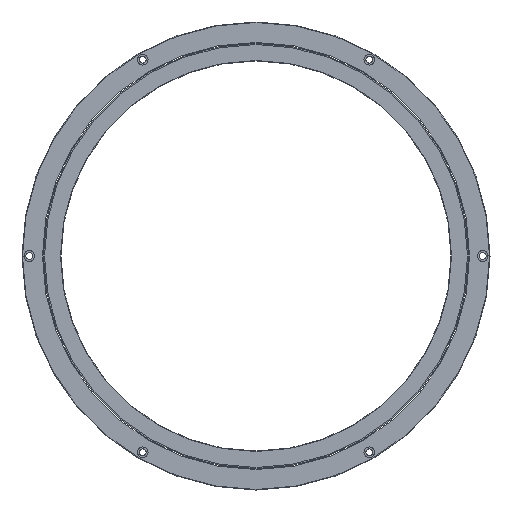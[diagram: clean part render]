
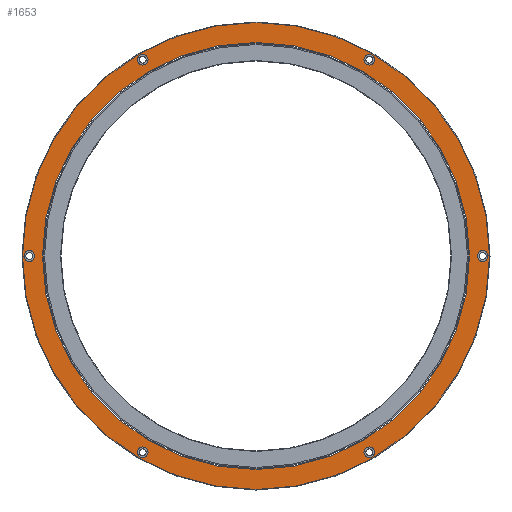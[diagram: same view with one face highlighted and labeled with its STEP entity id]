
A CAD part, front view. The second image highlights one B-rep face of the part: STEP entity #1653.
In plain terms, the highlighted planar face has unit normal (0, -1, 0).
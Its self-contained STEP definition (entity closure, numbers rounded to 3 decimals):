
#371=CARTESIAN_POINT('',(0.,0.,0.));
#372=DIRECTION('',(0.,-1.,0.));
#373=DIRECTION('',(-1.,0.,0.));
#374=AXIS2_PLACEMENT_3D('',#371,#372,#373);
#376=CARTESIAN_POINT('',(0.,0.,0.));
#377=DIRECTION('',(0.,1.,0.));
#378=DIRECTION('',(-1.,0.,0.));
#379=AXIS2_PLACEMENT_3D('',#376,#377,#378);
#381=CARTESIAN_POINT('',(-232.5,0.,0.));
#382=DIRECTION('',(0.,1.,0.));
#383=DIRECTION('',(1.,0.,0.));
#384=AXIS2_PLACEMENT_3D('',#381,#382,#383);
#386=CARTESIAN_POINT('',(-232.5,0.,0.));
#387=DIRECTION('',(0.,1.,0.));
#388=DIRECTION('',(-1.,0.,0.));
#389=AXIS2_PLACEMENT_3D('',#386,#387,#388);
#391=CARTESIAN_POINT('',(-116.25,0.,201.351));
#392=DIRECTION('',(0.,1.,0.));
#393=DIRECTION('',(0.5,0.,-0.866));
#394=AXIS2_PLACEMENT_3D('',#391,#392,#393);
#396=CARTESIAN_POINT('',(-116.25,0.,201.351));
#397=DIRECTION('',(0.,1.,0.));
#398=DIRECTION('',(-0.5,0.,0.866));
#399=AXIS2_PLACEMENT_3D('',#396,#397,#398);
#401=CARTESIAN_POINT('',(116.25,0.,201.351));
#402=DIRECTION('',(0.,1.,0.));
#403=DIRECTION('',(-0.5,0.,-0.866));
#404=AXIS2_PLACEMENT_3D('',#401,#402,#403);
#406=CARTESIAN_POINT('',(116.25,0.,201.351));
#407=DIRECTION('',(0.,1.,0.));
#408=DIRECTION('',(0.5,0.,0.866));
#409=AXIS2_PLACEMENT_3D('',#406,#407,#408);
#411=CARTESIAN_POINT('',(232.5,0.,0.));
#412=DIRECTION('',(0.,1.,0.));
#413=DIRECTION('',(-1.,0.,0.));
#414=AXIS2_PLACEMENT_3D('',#411,#412,#413);
#416=CARTESIAN_POINT('',(232.5,0.,0.));
#417=DIRECTION('',(0.,1.,0.));
#418=DIRECTION('',(1.,0.,0.));
#419=AXIS2_PLACEMENT_3D('',#416,#417,#418);
#421=CARTESIAN_POINT('',(116.25,0.,-201.351));
#422=DIRECTION('',(0.,1.,0.));
#423=DIRECTION('',(-0.5,0.,0.866));
#424=AXIS2_PLACEMENT_3D('',#421,#422,#423);
#426=CARTESIAN_POINT('',(116.25,0.,-201.351));
#427=DIRECTION('',(0.,1.,0.));
#428=DIRECTION('',(0.5,0.,-0.866));
#429=AXIS2_PLACEMENT_3D('',#426,#427,#428);
#431=CARTESIAN_POINT('',(-116.25,0.,-201.351));
#432=DIRECTION('',(0.,1.,0.));
#433=DIRECTION('',(0.5,0.,0.866));
#434=AXIS2_PLACEMENT_3D('',#431,#432,#433);
#436=CARTESIAN_POINT('',(-116.25,0.,-201.351));
#437=DIRECTION('',(0.,1.,0.));
#438=DIRECTION('',(-0.5,0.,-0.866));
#439=AXIS2_PLACEMENT_3D('',#436,#437,#438);
#441=CARTESIAN_POINT('',(0.,0.,0.));
#442=DIRECTION('',(0.,1.,0.));
#443=DIRECTION('',(-1.,0.,0.));
#444=AXIS2_PLACEMENT_3D('',#441,#442,#443);
#446=CARTESIAN_POINT('',(0.,0.,0.));
#447=DIRECTION('',(0.,1.,0.));
#448=DIRECTION('',(1.,0.,0.));
#449=AXIS2_PLACEMENT_3D('',#446,#447,#448);
#919=CARTESIAN_POINT('',(-227.,0.,0.));
#920=VERTEX_POINT('',#919);
#921=CARTESIAN_POINT('',(-238.,0.,0.));
#922=VERTEX_POINT('',#921);
#931=CARTESIAN_POINT('',(-113.5,0.,196.588));
#932=VERTEX_POINT('',#931);
#933=CARTESIAN_POINT('',(-119.,0.,206.114));
#934=VERTEX_POINT('',#933);
#943=CARTESIAN_POINT('',(113.5,0.,196.588));
#944=VERTEX_POINT('',#943);
#945=CARTESIAN_POINT('',(119.,0.,206.114));
#946=VERTEX_POINT('',#945);
#955=CARTESIAN_POINT('',(227.,0.,0.));
#956=VERTEX_POINT('',#955);
#957=CARTESIAN_POINT('',(238.,0.,0.));
#958=VERTEX_POINT('',#957);
#976=CARTESIAN_POINT('',(-219.,0.,0.));
#978=VERTEX_POINT('',#976);
#980=CARTESIAN_POINT('',(219.,0.,0.));
#982=VERTEX_POINT('',#980);
#995=CARTESIAN_POINT('',(-239.5,0.,0.));
#996=CARTESIAN_POINT('',(239.5,0.,0.));
#997=VERTEX_POINT('',#995);
#998=VERTEX_POINT('',#996);
#1043=CARTESIAN_POINT('',(113.5,0.,-196.588));
#1044=CARTESIAN_POINT('',(119.,0.,-206.114));
#1045=VERTEX_POINT('',#1043);
#1046=VERTEX_POINT('',#1044);
#1055=CARTESIAN_POINT('',(-113.5,0.,-196.588));
#1056=CARTESIAN_POINT('',(-119.,0.,-206.114));
#1057=VERTEX_POINT('',#1055);
#1058=VERTEX_POINT('',#1056);
#1604=CARTESIAN_POINT('',(0.,0.,0.));
#1605=DIRECTION('',(0.,1.,0.));
#1606=DIRECTION('',(1.,0.,0.));
#1607=AXIS2_PLACEMENT_3D('',#1604,#1605,#1606);
#1608=PLANE('',#1607);
#1609=ORIENTED_EDGE('',*,*,#1090,.T.);
#1610=ORIENTED_EDGE('',*,*,#1105,.T.);
#1611=EDGE_LOOP('',(#1609,#1610));
#1612=FACE_OUTER_BOUND('',#1611,.F.);
#1614=ORIENTED_EDGE('',*,*,#1613,.F.);
#1616=ORIENTED_EDGE('',*,*,#1615,.F.);
#1617=EDGE_LOOP('',(#1614,#1616));
#1618=FACE_BOUND('',#1617,.F.);
#1620=ORIENTED_EDGE('',*,*,#1619,.F.);
#1622=ORIENTED_EDGE('',*,*,#1621,.F.);
#1623=EDGE_LOOP('',(#1620,#1622));
#1624=FACE_BOUND('',#1623,.F.);
#1626=ORIENTED_EDGE('',*,*,#1625,.F.);
#1628=ORIENTED_EDGE('',*,*,#1627,.F.);
#1629=EDGE_LOOP('',(#1626,#1628));
#1630=FACE_BOUND('',#1629,.F.);
#1632=ORIENTED_EDGE('',*,*,#1631,.F.);
#1634=ORIENTED_EDGE('',*,*,#1633,.F.);
#1635=EDGE_LOOP('',(#1632,#1634));
#1636=FACE_BOUND('',#1635,.F.);
#1638=ORIENTED_EDGE('',*,*,#1637,.F.);
#1640=ORIENTED_EDGE('',*,*,#1639,.F.);
#1641=EDGE_LOOP('',(#1638,#1640));
#1642=FACE_BOUND('',#1641,.F.);
#1644=ORIENTED_EDGE('',*,*,#1643,.F.);
#1646=ORIENTED_EDGE('',*,*,#1645,.F.);
#1647=EDGE_LOOP('',(#1644,#1646));
#1648=FACE_BOUND('',#1647,.F.);
#1649=ORIENTED_EDGE('',*,*,#1599,.T.);
#1650=ORIENTED_EDGE('',*,*,#1583,.F.);
#1651=EDGE_LOOP('',(#1649,#1650));
#1652=FACE_BOUND('',#1651,.F.);
#375=CIRCLE('',#374,219.);
#380=CIRCLE('',#379,219.);
#385=CIRCLE('',#384,5.5);
#390=CIRCLE('',#389,5.5);
#395=CIRCLE('',#394,5.5);
#400=CIRCLE('',#399,5.5);
#405=CIRCLE('',#404,5.5);
#410=CIRCLE('',#409,5.5);
#415=CIRCLE('',#414,5.5);
#420=CIRCLE('',#419,5.5);
#425=CIRCLE('',#424,5.5);
#430=CIRCLE('',#429,5.5);
#435=CIRCLE('',#434,5.5);
#440=CIRCLE('',#439,5.5);
#445=CIRCLE('',#444,239.5);
#450=CIRCLE('',#449,239.5);
#1090=EDGE_CURVE('',#997,#998,#445,.T.);
#1105=EDGE_CURVE('',#998,#997,#450,.T.);
#1583=EDGE_CURVE('',#978,#982,#380,.T.);
#1599=EDGE_CURVE('',#978,#982,#375,.T.);
#1613=EDGE_CURVE('',#920,#922,#385,.T.);
#1615=EDGE_CURVE('',#922,#920,#390,.T.);
#1619=EDGE_CURVE('',#932,#934,#395,.T.);
#1621=EDGE_CURVE('',#934,#932,#400,.T.);
#1625=EDGE_CURVE('',#944,#946,#405,.T.);
#1627=EDGE_CURVE('',#946,#944,#410,.T.);
#1631=EDGE_CURVE('',#956,#958,#415,.T.);
#1633=EDGE_CURVE('',#958,#956,#420,.T.);
#1637=EDGE_CURVE('',#1045,#1046,#425,.T.);
#1639=EDGE_CURVE('',#1046,#1045,#430,.T.);
#1643=EDGE_CURVE('',#1057,#1058,#435,.T.);
#1645=EDGE_CURVE('',#1058,#1057,#440,.T.);
#1653=ADVANCED_FACE('',(#1612,#1618,#1624,#1630,#1636,#1642,#1648,#1652),#1608,
.F.);
